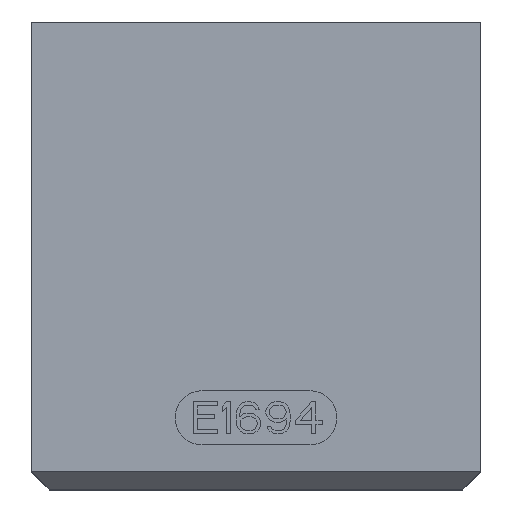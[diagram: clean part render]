
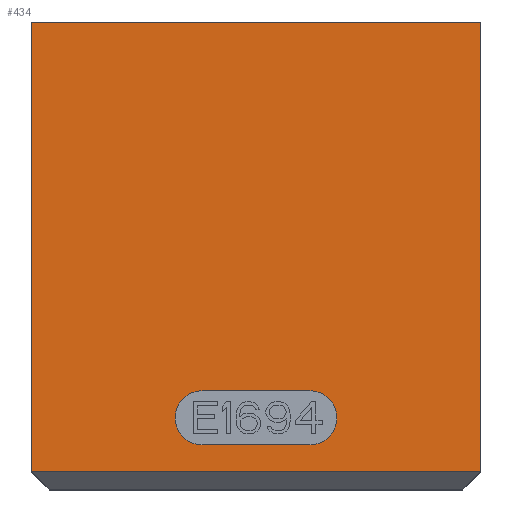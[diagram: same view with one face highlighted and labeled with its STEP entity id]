
A CAD part, top view. The second image highlights one B-rep face of the part: STEP entity #434.
In plain terms, the highlighted planar face has unit normal (0, 0, 1).
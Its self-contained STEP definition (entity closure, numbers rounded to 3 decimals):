
#160 = VERTEX_POINT ( 'NONE', #1833 ) ;
#188 = LINE ( 'NONE', #7276, #3851 ) ;
#298 = LINE ( 'NONE', #4676, #5879 ) ;
#434 = ADVANCED_FACE ( 'NONE', ( #3241, #5175 ), #2781, .T. ) ;
#584 = CARTESIAN_POINT ( 'NONE',  ( -12.5, 0., 5. ) ) ;
#658 = VERTEX_POINT ( 'NONE', #2002 ) ;
#737 = AXIS2_PLACEMENT_3D ( 'NONE', #8317, #3925, #9048 ) ;
#745 = VERTEX_POINT ( 'NONE', #1218 ) ;
#799 = VECTOR ( 'NONE', #1515, 1000. ) ;
#962 = EDGE_CURVE ( 'NONE', #745, #4701, #6650, .T. ) ;
#1218 = CARTESIAN_POINT ( 'NONE',  ( 3., 5.5, 5. ) ) ;
#1265 = EDGE_CURVE ( 'NONE', #160, #5548, #188, .T. ) ;
#1430 = VERTEX_POINT ( 'NONE', #7356 ) ;
#1515 = DIRECTION ( 'NONE',  ( -1., 0., 0. ) ) ;
#1553 = DIRECTION ( 'NONE',  ( 0., 0., -1. ) ) ;
#1697 = VERTEX_POINT ( 'NONE', #4575 ) ;
#1833 = CARTESIAN_POINT ( 'NONE',  ( -12.5, 1., 5. ) ) ;
#1845 = DIRECTION ( 'NONE',  ( 1., 0., 0. ) ) ;
#2002 = CARTESIAN_POINT ( 'NONE',  ( 12.5, 26., 5. ) ) ;
#2102 = LINE ( 'NONE', #6965, #5748 ) ;
#2125 = VERTEX_POINT ( 'NONE', #8281 ) ;
#2152 = DIRECTION ( 'NONE',  ( 1., 0., 0. ) ) ;
#2224 = ORIENTED_EDGE ( 'NONE', *, *, #962, .T. ) ;
#2253 = ORIENTED_EDGE ( 'NONE', *, *, #7502, .F. ) ;
#2338 = AXIS2_PLACEMENT_3D ( 'NONE', #8621, #4240, #9372 ) ;
#2781 = PLANE ( 'NONE',  #8464 ) ;
#2859 = CIRCLE ( 'NONE', #5896, 1.5 ) ;
#2861 = EDGE_CURVE ( 'NONE', #1430, #658, #2102, .T. ) ;
#2988 = CARTESIAN_POINT ( 'NONE',  ( 12.5, 0., 5. ) ) ;
#3241 = FACE_BOUND ( 'NONE', #5354, .T. ) ;
#3369 = ORIENTED_EDGE ( 'NONE', *, *, #5671, .F. ) ;
#3525 = ORIENTED_EDGE ( 'NONE', *, *, #7570, .T. ) ;
#3544 = VERTEX_POINT ( 'NONE', #8168 ) ;
#3553 = LINE ( 'NONE', #5500, #9166 ) ;
#3620 = ORIENTED_EDGE ( 'NONE', *, *, #4169, .T. ) ;
#3722 = DIRECTION ( 'NONE',  ( 0., -1., 0. ) ) ;
#3851 = VECTOR ( 'NONE', #2152, 1000. ) ;
#3925 = DIRECTION ( 'NONE',  ( 0., 0., -1. ) ) ;
#4169 = EDGE_CURVE ( 'NONE', #2125, #3544, #7143, .T. ) ;
#4240 = DIRECTION ( 'NONE',  ( 0., 0., -1. ) ) ;
#4256 = DIRECTION ( 'NONE',  ( 1., 0., 0. ) ) ;
#4575 = CARTESIAN_POINT ( 'NONE',  ( 3., 2.5, 5. ) ) ;
#4676 = CARTESIAN_POINT ( 'NONE',  ( -12.5, 5.5, 5. ) ) ;
#4701 = VERTEX_POINT ( 'NONE', #6607 ) ;
#5175 = FACE_OUTER_BOUND ( 'NONE', #8567, .T. ) ;
#5259 = VECTOR ( 'NONE', #3722, 1000. ) ;
#5354 = EDGE_LOOP ( 'NONE', ( #8734, #3620, #8029, #2224, #3525 ) ) ;
#5399 = DIRECTION ( 'NONE',  ( 1., 0., 0. ) ) ;
#5500 = CARTESIAN_POINT ( 'NONE',  ( -12.5, 0., 5. ) ) ;
#5548 = VERTEX_POINT ( 'NONE', #7929 ) ;
#5671 = EDGE_CURVE ( 'NONE', #658, #5548, #9411, .T. ) ;
#5748 = VECTOR ( 'NONE', #1845, 1000. ) ;
#5879 = VECTOR ( 'NONE', #5399, 1000. ) ;
#5896 = AXIS2_PLACEMENT_3D ( 'NONE', #5925, #1553, #6662 ) ;
#5925 = CARTESIAN_POINT ( 'NONE',  ( 3., 4., 5. ) ) ;
#6155 = ORIENTED_EDGE ( 'NONE', *, *, #1265, .T. ) ;
#6245 = DIRECTION ( 'NONE',  ( 0., 1., 0. ) ) ;
#6439 = ORIENTED_EDGE ( 'NONE', *, *, #2861, .F. ) ;
#6522 = EDGE_CURVE ( 'NONE', #1697, #2125, #6610, .T. ) ;
#6607 = CARTESIAN_POINT ( 'NONE',  ( 4.5, 4., 5. ) ) ;
#6610 = LINE ( 'NONE', #6626, #799 ) ;
#6626 = CARTESIAN_POINT ( 'NONE',  ( -12.5, 2.5, 5. ) ) ;
#6650 = CIRCLE ( 'NONE', #737, 1.5 ) ;
#6662 = DIRECTION ( 'NONE',  ( 1., 0., 0. ) ) ;
#6965 = CARTESIAN_POINT ( 'NONE',  ( 0., 26., 5. ) ) ;
#7143 = CIRCLE ( 'NONE', #2338, 1.5 ) ;
#7276 = CARTESIAN_POINT ( 'NONE',  ( -12.5, 1., 5. ) ) ;
#7356 = CARTESIAN_POINT ( 'NONE',  ( -12.5, 26., 5. ) ) ;
#7502 = EDGE_CURVE ( 'NONE', #160, #1430, #3553, .T. ) ;
#7570 = EDGE_CURVE ( 'NONE', #4701, #1697, #2859, .T. ) ;
#7929 = CARTESIAN_POINT ( 'NONE',  ( 12.5, 1., 5. ) ) ;
#8029 = ORIENTED_EDGE ( 'NONE', *, *, #8990, .T. ) ;
#8168 = CARTESIAN_POINT ( 'NONE',  ( -3., 5.5, 5. ) ) ;
#8281 = CARTESIAN_POINT ( 'NONE',  ( -3., 2.5, 5. ) ) ;
#8317 = CARTESIAN_POINT ( 'NONE',  ( 3., 4., 5. ) ) ;
#8464 = AXIS2_PLACEMENT_3D ( 'NONE', #584, #8638, #4256 ) ;
#8567 = EDGE_LOOP ( 'NONE', ( #2253, #6155, #3369, #6439 ) ) ;
#8621 = CARTESIAN_POINT ( 'NONE',  ( -3., 4., 5. ) ) ;
#8638 = DIRECTION ( 'NONE',  ( 0., 0., 1. ) ) ;
#8734 = ORIENTED_EDGE ( 'NONE', *, *, #6522, .T. ) ;
#8990 = EDGE_CURVE ( 'NONE', #3544, #745, #298, .T. ) ;
#9048 = DIRECTION ( 'NONE',  ( 1., 0., 0. ) ) ;
#9166 = VECTOR ( 'NONE', #6245, 1000. ) ;
#9372 = DIRECTION ( 'NONE',  ( 1., 0., 0. ) ) ;
#9411 = LINE ( 'NONE', #2988, #5259 ) ;
